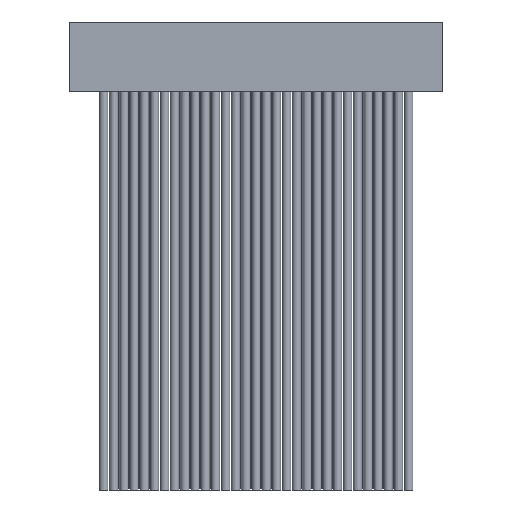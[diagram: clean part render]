
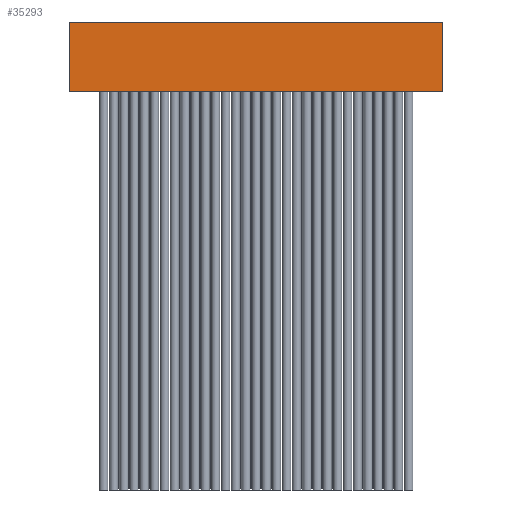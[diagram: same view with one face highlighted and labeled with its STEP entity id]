
A CAD part, front view. The second image highlights one B-rep face of the part: STEP entity #35293.
In plain terms, the highlighted planar face has unit normal (0, -1, 0).
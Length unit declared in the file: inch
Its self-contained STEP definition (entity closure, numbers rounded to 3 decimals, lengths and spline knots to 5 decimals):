
#336 = EDGE_CURVE ( 'NONE', #15797, #52770, #10760, .T. ) ;
#480 = DIRECTION ( 'NONE',  ( 0., 0., -1. ) ) ;
#724 = ORIENTED_EDGE ( 'NONE', *, *, #38456, .T. ) ;
#1514 = CARTESIAN_POINT ( 'NONE',  ( 0.9175, -0.0625, -0.34 ) ) ;
#3740 = ORIENTED_EDGE ( 'NONE', *, *, #21802, .F. ) ;
#10590 = CARTESIAN_POINT ( 'NONE',  ( -0.9175, -0.0625, -0.34 ) ) ;
#10760 = LINE ( 'NONE', #27578, #28317 ) ;
#12610 = CARTESIAN_POINT ( 'NONE',  ( -0.9175, -0.0625, -0.34 ) ) ;
#15375 = ORIENTED_EDGE ( 'NONE', *, *, #336, .F. ) ;
#15797 = VERTEX_POINT ( 'NONE', #32703 ) ;
#16758 = DIRECTION ( 'NONE',  ( 0., -1., 0. ) ) ;
#18720 = LINE ( 'NONE', #35933, #35263 ) ;
#19387 = LINE ( 'NONE', #10590, #23639 ) ;
#19512 = ORIENTED_EDGE ( 'NONE', *, *, #35657, .T. ) ;
#21802 = EDGE_CURVE ( 'NONE', #42886, #15797, #25310, .T. ) ;
#23639 = VECTOR ( 'NONE', #23796, 39.37008 ) ;
#23796 = DIRECTION ( 'NONE',  ( 1., 0., 0. ) ) ;
#25310 = LINE ( 'NONE', #12610, #31362 ) ;
#25835 = DIRECTION ( 'NONE',  ( 0., 0., 1. ) ) ;
#27578 = CARTESIAN_POINT ( 'NONE',  ( -0.9175, -0.0625, 0. ) ) ;
#28317 = VECTOR ( 'NONE', #44179, 39.37008 ) ;
#31362 = VECTOR ( 'NONE', #25835, 39.37008 ) ;
#32101 = DIRECTION ( 'NONE',  ( 0., 0., 1. ) ) ;
#32568 = CARTESIAN_POINT ( 'NONE',  ( -0.9175, -0.0625, -0.34 ) ) ;
#32703 = CARTESIAN_POINT ( 'NONE',  ( -0.9175, -0.0625, 0. ) ) ;
#33704 = CARTESIAN_POINT ( 'NONE',  ( -0.9175, -0.0625, -0.34 ) ) ;
#35263 = VECTOR ( 'NONE', #32101, 39.37008 ) ;
#35293 = ADVANCED_FACE ( 'NONE', ( #37798 ), #38340, .T. ) ;
#35598 = VERTEX_POINT ( 'NONE', #1514 ) ;
#35657 = EDGE_CURVE ( 'NONE', #42886, #35598, #19387, .T. ) ;
#35933 = CARTESIAN_POINT ( 'NONE',  ( 0.9175, -0.0625, -0.34 ) ) ;
#37798 = FACE_OUTER_BOUND ( 'NONE', #46031, .T. ) ;
#38340 = PLANE ( 'NONE',  #52273 ) ;
#38456 = EDGE_CURVE ( 'NONE', #35598, #52770, #18720, .T. ) ;
#42886 = VERTEX_POINT ( 'NONE', #32568 ) ;
#44179 = DIRECTION ( 'NONE',  ( 1., 0., 0. ) ) ;
#44992 = CARTESIAN_POINT ( 'NONE',  ( 0.9175, -0.0625, 0. ) ) ;
#46031 = EDGE_LOOP ( 'NONE', ( #15375, #3740, #19512, #724 ) ) ;
#52273 = AXIS2_PLACEMENT_3D ( 'NONE', #33704, #16758, #480 ) ;
#52770 = VERTEX_POINT ( 'NONE', #44992 ) ;
